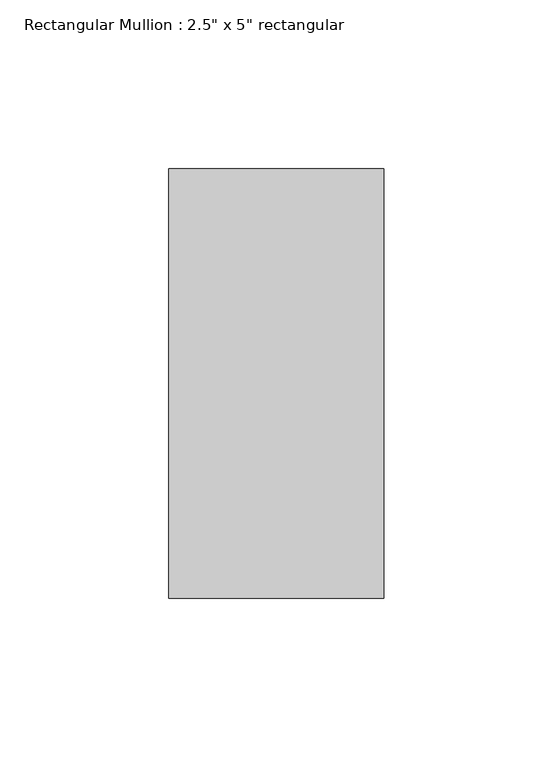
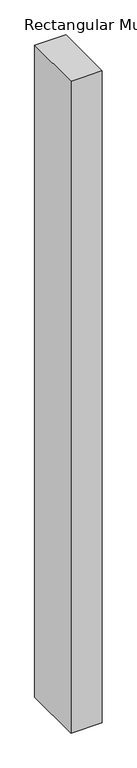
"""IFC4 building model written with IfcOpenShell, lengths in millimetres: member geometry."""

from ifc_helpers import new_model, si_unit, frame, origin, place, context, project, spatial, polyline, outline, extrude, source, transform, mapped, element, save


def member_f07b7441(model_context):
    return source(origin(), model_context, "Body", "SweptSolid", [
        extrude(outline(polyline([(0.0, 63.5), (0.0, -63.5), (-63.5, -63.5), (-63.5, 63.5), (0.0, 63.5)])), frame((0.0, 0.0, -1397.0), z_axis=(0.0, 0.0, 1.0), x_axis=(1.0, 0.0, 0.0)), (0.0, 0.0, 1.0), 1397.0),
    ])


if __name__ == "__main__":
    model = new_model("IFC4")
    model_context = context("Model", 3, world=origin())
    ifc_project = project(units=[si_unit("LENGTHUNIT", "METRE", prefix="MILLI")], contexts=[model_context])
    site = spatial("IfcSite", under=ifc_project)
    building = spatial("IfcBuilding", under=site)
    placement = place(None, origin())
    member_shape = member_f07b7441(model_context)
    element("IfcMember", 1, ObjectType="Rectangular Mullion : 2.5\" x 5\" rectangular", at=placement, inside=building, context=model_context, shape_type="MappedRepresentation", body=[
        mapped(member_shape, transform((0.0, 0.0, 0.0), x_axis=(1.0, 0.0, 0.0), y_axis=(0.0, 1.0, 0.0), z_axis=(0.0, 0.0, 1.0))),
    ])
    save(model, "model.ifc")
